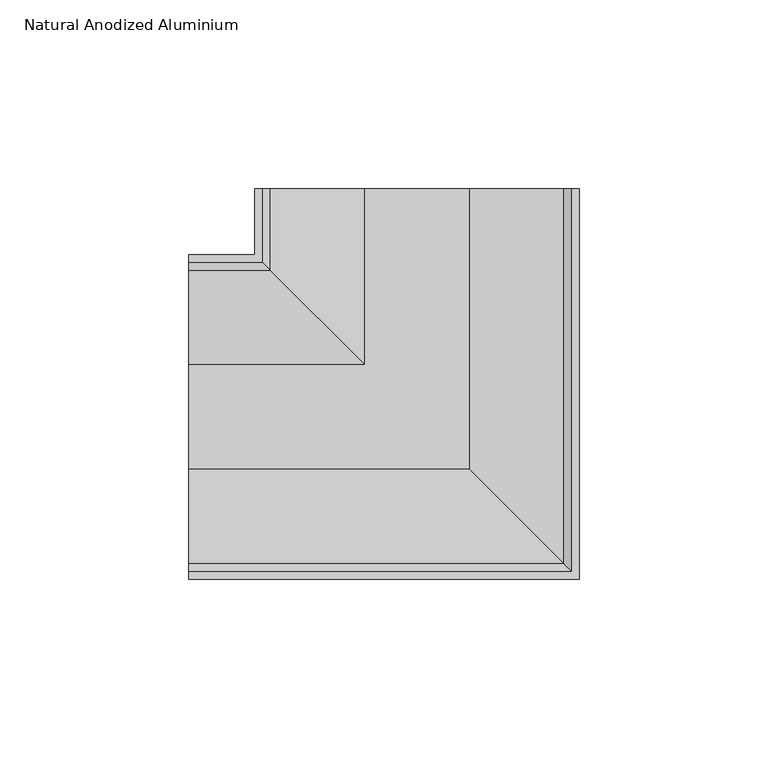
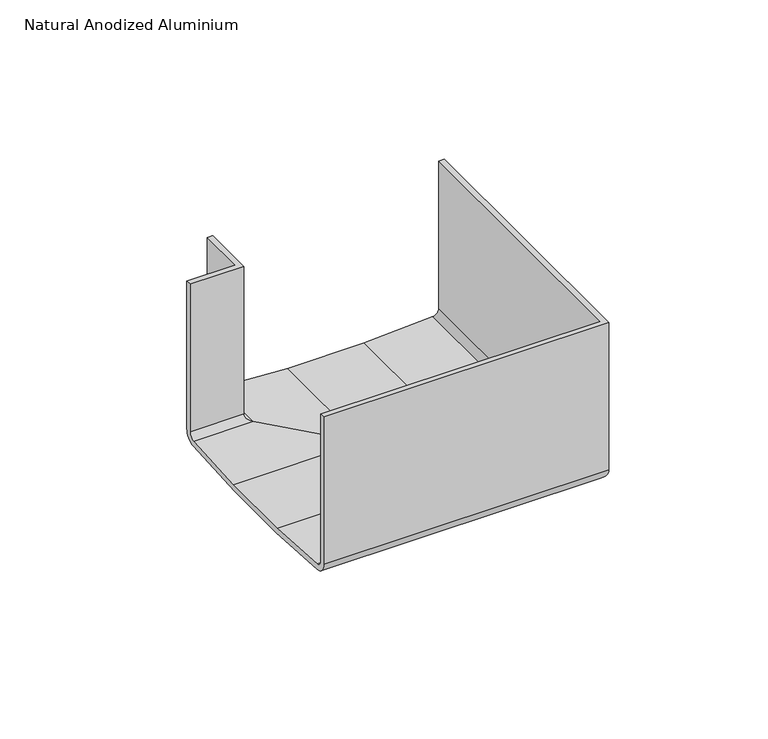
"""IFC4 building model written with IfcOpenShell, lengths in millimetres: cable carrier fitting geometry, Electrical_Installations_Hager_GBA-Flat-Corner-Vertical-Inside-And-Outside-Bend : Natural Anodized Aluminium."""

from ifc_helpers import new_model, si_unit, frame, origin, place, context, project, spatial, polyline, circle_curve, ellipse_curve, source, transform, mapped, element, save
from ifc_brep_helpers import plane_surface, cylinder_surface, revolved_surface, advanced_brep


def natural_anodized_aluminium_261b038a(model_context):
    return source(origin(), model_context, "Body", "AdvancedBrep", [
        advanced_brep(
        [(-60.5, 12.8133024, -34.957916), (-60.5, -12.8629789, -34.957916), (-60.5, -38.9370768, -33.406396), (-60.5, -43.0248383, -29.0681648), (-60.5, -43.0248383, 27.521231), (-60.5, -41.0727353, 27.521231), (-60.5, -41.0727353, -29.0681648), (-60.5, -38.9329395, -31.4049977), (-60.5, -13.8540421, -32.926666), (-60.5, 13.8043655, -32.926666), (-60.5, 38.819149, -31.4097682), (-60.5, 41.0139434, -29.0681648), (-60.5, 41.0139434, 27.6254199), (-60.5, 42.9751617, 27.6254199), (-60.5, 42.9751617, -29.0681648), (-60.5, 39.011084, -33.3972636), (-12.8133024, 12.8133024, -34.957916), (-12.8133024, 60.5, -34.957916), (12.8629789, 60.5, -34.957916), (12.8629789, -12.8629789, -34.957916), (38.9370768, -38.9370768, -33.406396), (43.0248383, -43.0248383, -29.0681648), (43.0248383, -43.0248383, 27.521231), (43.0248383, 60.5, 27.521231), (41.0727353, 60.5, 27.521231), (41.0727353, -41.0727353, 27.521231), (41.0727353, -41.0727353, -29.0681648), (38.9329395, -38.9329395, -31.4049977), (13.8540421, -13.8540421, -32.926666), (13.8540421, 60.5, -32.926666), (-13.8043655, 60.5, -32.926666), (-13.8043655, 13.8043655, -32.926666), (-38.819149, 38.819149, -31.4097682), (-41.0139434, 41.0139434, -29.0681648), (-41.0139434, 41.0139434, 27.6254199), (-41.0139434, 60.5, 27.6254199), (-42.9751617, 60.5, 27.6254199), (-42.9751617, 42.9751617, 27.6254199), (-42.9751617, 42.9751617, -29.0681648), (-39.011084, 39.011084, -33.3972636), (-38.8874003, 60.5, -33.406396), (-42.9751617, 60.5, -29.0681648), (-41.0139434, 60.5, -29.0681648), (-38.8741476, 60.5, -31.4049977), (38.8688255, 60.5, -31.4097682), (41.0727353, 60.5, -29.0681648), (43.0248383, 60.5, -29.0681648), (39.0607605, 60.5, -33.3972636)],
        [
            (0, 1),
            (1, 2, circle_curve(frame((-60.5, -8.5707654, 257.0450878), z_axis=(-1.0, 0.0, 0.0), x_axis=(0.0, 0.0, 1.0)), 292.0345481)),
            (2, 3, circle_curve(frame((-60.5, -38.6789336, -29.0681648), z_axis=(-1.0, 0.0, 0.0), x_axis=(0.0, 0.0, 1.0)), 4.3459047)),
            (3, 4),
            (4, 5),
            (5, 6),
            (6, 7, circle_curve(frame((-60.5, -38.7268306, -29.0681648), z_axis=(1.0, 0.0, 0.0), x_axis=(0.0, 0.0, 1.0)), 2.3459047)),
            (7, 8, circle_curve(frame((-60.5, -9.3389631, 248.5451055), z_axis=(1.0, 0.0, 0.0), x_axis=(0.0, 0.0, 1.0)), 281.5079822)),
            (8, 9),
            (9, 10, circle_curve(frame((-60.5, 9.2892866, 248.5451055), z_axis=(1.0, 0.0, 0.0), x_axis=(0.0, 0.0, 1.0)), 281.5079822)),
            (10, 11, circle_curve(frame((-60.5, 38.6680387, -29.0681648), z_axis=(1.0, 0.0, 0.0), x_axis=(0.0, 0.0, 1.0)), 2.3459047)),
            (11, 12),
            (12, 13),
            (13, 14),
            (14, 15, circle_curve(frame((-60.5, 38.629257, -29.0681648), z_axis=(-1.0, 0.0, 0.0), x_axis=(0.0, 0.0, 1.0)), 4.3459047)),
            (15, 0, circle_curve(frame((-60.5, 8.5210889, 257.0450878), z_axis=(-1.0, 0.0, 0.0), x_axis=(0.0, 0.0, 1.0)), 292.0345481)),
            (0, 16),
            (16, 17),
            (17, 18),
            (18, 19),
            (19, 1),
            (19, 20, ellipse_curve(frame((8.5707654, -8.5707654, 257.0450878), z_axis=(-0.7071067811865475, -0.7071067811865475, 0.0), x_axis=(-0.7071067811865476, 0.7071067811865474, 0.0)), 412.9992186, 292.0345481)),
            (20, 2),
            (20, 21, ellipse_curve(frame((38.6789336, -38.6789336, -29.0681648), z_axis=(-0.7071067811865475, -0.7071067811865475, 0.0), x_axis=(-0.7071067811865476, 0.7071067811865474, 0.0)), 6.1460374, 4.3459047)),
            (21, 3),
            (21, 22),
            (22, 4),
            (22, 23),
            (23, 24),
            (24, 25),
            (25, 5),
            (25, 26),
            (26, 6),
            (26, 27, ellipse_curve(frame((38.7268306, -38.7268306, -29.0681648), z_axis=(0.7071067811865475, 0.7071067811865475, 0.0), x_axis=(0.7071067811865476, -0.7071067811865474, 0.0)), 3.3176103, 2.3459047)),
            (27, 7),
            (27, 28, ellipse_curve(frame((9.3389631, -9.3389631, 248.5451055), z_axis=(0.7071067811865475, 0.7071067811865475, 0.0), x_axis=(0.7071067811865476, -0.7071067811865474, 0.0)), 398.1124064, 281.5079822)),
            (28, 8),
            (28, 29),
            (29, 30),
            (30, 31),
            (31, 9),
            (31, 32, ellipse_curve(frame((-9.2892866, 9.2892866, 248.5451055), z_axis=(0.7071067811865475, 0.7071067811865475, 0.0), x_axis=(0.7071067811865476, -0.7071067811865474, 0.0)), 398.1124064, 281.5079822)),
            (32, 10),
            (32, 33, ellipse_curve(frame((-38.6680387, 38.6680387, -29.0681648), z_axis=(0.7071067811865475, 0.7071067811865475, 0.0), x_axis=(0.7071067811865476, -0.7071067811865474, 0.0)), 3.3176103, 2.3459047)),
            (33, 11),
            (33, 34),
            (34, 12),
            (34, 35),
            (35, 36),
            (36, 37),
            (37, 13),
            (37, 38),
            (38, 14),
            (38, 39, ellipse_curve(frame((-38.629257, 38.629257, -29.0681648), z_axis=(-0.7071067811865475, -0.7071067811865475, 0.0), x_axis=(-0.7071067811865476, 0.7071067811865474, 0.0)), 6.1460374, 4.3459047)),
            (39, 15),
            (39, 16, ellipse_curve(frame((-8.5210889, 8.5210889, 257.0450878), z_axis=(-0.7071067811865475, -0.7071067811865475, 0.0), x_axis=(-0.7071067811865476, 0.7071067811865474, 0.0)), 412.9992186, 292.0345481)),
            (17, 40, circle_curve(frame((-8.5210889, 60.5, 257.0450878), z_axis=(0.0, 1.0, 0.0), x_axis=(0.0, 0.0, 1.0)), 292.0345481)),
            (40, 41, circle_curve(frame((-38.629257, 60.5, -29.0681648), z_axis=(0.0, 1.0, 0.0), x_axis=(0.0, 0.0, 1.0)), 4.3459047)),
            (41, 36),
            (35, 42),
            (42, 43, circle_curve(frame((-38.6680387, 60.5, -29.0681648), z_axis=(0.0, -1.0, 0.0), x_axis=(0.0, 0.0, 1.0)), 2.3459047)),
            (43, 30, circle_curve(frame((-9.2892866, 60.5, 248.5451055), z_axis=(0.0, -1.0, 0.0), x_axis=(0.0, 0.0, 1.0)), 281.5079822)),
            (29, 44, circle_curve(frame((9.3389631, 60.5, 248.5451055), z_axis=(0.0, -1.0, 0.0), x_axis=(0.0, 0.0, 1.0)), 281.5079822)),
            (44, 45, circle_curve(frame((38.7268306, 60.5, -29.0681648), z_axis=(0.0, -1.0, 0.0), x_axis=(0.0, 0.0, 1.0)), 2.3459047)),
            (45, 24),
            (23, 46),
            (46, 47, circle_curve(frame((38.6789336, 60.5, -29.0681648), z_axis=(0.0, 1.0, 0.0), x_axis=(0.0, 0.0, 1.0)), 4.3459047)),
            (47, 18, circle_curve(frame((8.5707654, 60.5, 257.0450878), z_axis=(0.0, 1.0, 0.0), x_axis=(0.0, 0.0, 1.0)), 292.0345481)),
            (47, 20),
            (46, 21),
            (45, 26),
            (44, 27),
            (43, 32),
            (42, 33),
            (41, 38),
            (40, 39),
        ],
        [
            plane_surface(frame((-60.5, 0.0, 0.0), z_axis=(-1.0, 0.0, 0.0), x_axis=(0.0, 0.0, 1.0))),
            plane_surface(frame((-60.5, 12.8133024, -34.957916), z_axis=(0.0, 0.0, -1.0), x_axis=(1.0, 0.0, 0.0))),
            cylinder_surface(frame((-60.5, -8.5707654, 257.0450878), z_axis=(-1.0, 0.0, 0.0), x_axis=(0.0, 0.0, 1.0)), 292.0345481),
            cylinder_surface(frame((-60.5, -38.6789336, -29.0681648), z_axis=(-1.0, 0.0, 0.0), x_axis=(0.0, 0.0, 1.0)), 4.3459047),
            plane_surface(frame((-60.5, -43.0248383, -29.0681648), z_axis=(0.0, -1.0, 0.0), x_axis=(1.0, 0.0, 0.0))),
            plane_surface(frame((-60.5, -43.0248383, 27.521231), z_axis=(0.0, 0.0, 1.0), x_axis=(1.0, 0.0, 0.0))),
            plane_surface(frame((-60.5, -41.0727353, 27.521231), z_axis=(0.0, 1.0, 0.0), x_axis=(1.0, 0.0, 0.0))),
            revolved_surface(polyline([(41.072735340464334, -38.7268306, -26.7222601), (-60.5, -38.7268306, -26.7222601)]), (-60.5, -38.7268306, -29.0681648), (1.0, 0.0, 0.0)),
            revolved_surface(polyline([(290.8469453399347, -9.3389631, 530.0530877), (-272.1690191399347, -9.3389631, 530.0530877)]), (-60.5, -9.3389631, 248.5451055), (1.0, 0.0, 0.0)),
            plane_surface(frame((-60.5, -13.8540421, -32.926666), z_axis=(0.0, 0.0, 1.0), x_axis=(1.0, 0.0, 0.0))),
            revolved_surface(polyline([(272.2186956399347, 9.2892866, 530.0530877), (-290.79726883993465, 9.2892866, 530.0530877)]), (-60.5, 9.2892866, 248.5451055), (1.0, 0.0, 0.0)),
            revolved_surface(polyline([(-36.32213395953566, 38.6680387, -26.7222601), (-60.5, 38.6680387, -26.7222601)]), (-60.5, 38.6680387, -29.0681648), (1.0, 0.0, 0.0)),
            plane_surface(frame((-60.5, 41.0139434, -29.0681648), z_axis=(0.0, -1.0, 0.0), x_axis=(1.0, 0.0, 0.0))),
            plane_surface(frame((-60.5, 41.0139434, 27.6254199), z_axis=(0.0, 0.0, 1.0), x_axis=(1.0, 0.0, 0.0))),
            plane_surface(frame((-60.5, 42.9751617, 27.6254199), z_axis=(0.0, 1.0, 0.0), x_axis=(1.0, 0.0, 0.0))),
            cylinder_surface(frame((-60.5, 38.629257, -29.0681648), z_axis=(-1.0, 0.0, 0.0), x_axis=(0.0, 0.0, 1.0)), 4.3459047),
            cylinder_surface(frame((-60.5, 8.5210889, 257.0450878), z_axis=(-1.0, 0.0, 0.0), x_axis=(0.0, 0.0, 1.0)), 292.0345481),
            plane_surface(frame((0.0, 60.5, 0.0), z_axis=(0.0, 1.0, 0.0), x_axis=(0.0, 0.0, 1.0))),
            cylinder_surface(frame((8.5707654, 0.0, 257.0450878), z_axis=(0.0, -1.0, 0.0), x_axis=(0.0, 0.0, 1.0)), 292.0345481),
            cylinder_surface(frame((38.6789336, 0.0, -29.0681648), z_axis=(0.0, -1.0, 0.0), x_axis=(0.0, 0.0, 1.0)), 4.3459047),
            plane_surface(frame((43.0248383, -43.0248383, -29.0681648), z_axis=(1.0, 0.0, 0.0), x_axis=(0.0, 1.0, 0.0))),
            plane_surface(frame((41.0727353, -41.0727353, 27.521231), z_axis=(-1.0, 0.0, 0.0), x_axis=(0.0, 1.0, 0.0))),
            revolved_surface(polyline([(38.7268306, 60.5, -26.7222601), (38.7268306, -41.072735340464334, -26.7222601)]), (38.7268306, 0.0, -29.0681648), (0.0, 1.0, 0.0)),
            revolved_surface(polyline([(9.3389631, 272.1690191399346, 530.0530877), (9.3389631, -290.8469453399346, 530.0530877)]), (9.3389631, 0.0, 248.5451055), (0.0, 1.0, 0.0)),
            revolved_surface(polyline([(-9.2892866, 290.79726883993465, 530.0530877), (-9.2892866, -272.2186956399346, 530.0530877)]), (-9.2892866, 0.0, 248.5451055), (0.0, 1.0, 0.0)),
            revolved_surface(polyline([(-38.6680387, 60.5, -26.7222601), (-38.6680387, 36.32213395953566, -26.7222601)]), (-38.6680387, 0.0, -29.0681648), (0.0, 1.0, 0.0)),
            plane_surface(frame((-41.0139434, 41.0139434, -29.0681648), z_axis=(1.0, 0.0, 0.0), x_axis=(0.0, 1.0, 0.0))),
            plane_surface(frame((-42.9751617, 42.9751617, 27.6254199), z_axis=(-1.0, 0.0, 0.0), x_axis=(0.0, 1.0, 0.0))),
            cylinder_surface(frame((-38.629257, 0.0, -29.0681648), z_axis=(0.0, -1.0, 0.0), x_axis=(0.0, 0.0, 1.0)), 4.3459047),
            cylinder_surface(frame((-8.5210889, 0.0, 257.0450878), z_axis=(0.0, -1.0, 0.0), x_axis=(0.0, 0.0, 1.0)), 292.0345481),
        ],
        [
            (0, [[1, 2, 3, 4, 5, 6, 7, 8, 9, 10, 11, 12, 13, 14, 15, 16]]),
            (1, [[-1, 17, 18, 19, 20, 21]]),
            (2, [[-2, -21, 22, 23]]),
            (3, [[-3, -23, 24, 25]]),
            (4, [[-4, -25, 26, 27]]),
            (5, [[-5, -27, 28, 29, 30, 31]]),
            (6, [[-6, -31, 32, 33]]),
            (7, [[-7, -33, 34, 35]]),
            (8, [[-8, -35, 36, 37]]),
            (9, [[-9, -37, 38, 39, 40, 41]]),
            (10, [[-10, -41, 42, 43]]),
            (11, [[-11, -43, 44, 45]]),
            (12, [[-12, -45, 46, 47]]),
            (13, [[-13, -47, 48, 49, 50, 51]]),
            (14, [[-14, -51, 52, 53]]),
            (15, [[-15, -53, 54, 55]]),
            (16, [[-16, -55, 56, -17]]),
            (17, [[57, 58, 59, -49, 60, 61, 62, -39, 63, 64, 65, -29, 66, 67, 68, -19]]),
            (18, [[-22, -20, -68, 69]]),
            (19, [[-24, -69, -67, 70]]),
            (20, [[-26, -70, -66, -28]]),
            (21, [[-32, -30, -65, 71]]),
            (22, [[-34, -71, -64, 72]]),
            (23, [[-36, -72, -63, -38]]),
            (24, [[-42, -40, -62, 73]]),
            (25, [[-44, -73, -61, 74]]),
            (26, [[-46, -74, -60, -48]]),
            (27, [[-52, -50, -59, 75]]),
            (28, [[-54, -75, -58, 76]]),
            (29, [[-56, -76, -57, -18]]),
        ],
    ),
    ])


if __name__ == "__main__":
    model = new_model("IFC4")
    model_context = context("Model", 3, world=origin())
    ifc_project = project(units=[si_unit("LENGTHUNIT", "METRE", prefix="MILLI")], contexts=[model_context])
    site = spatial("IfcSite", under=ifc_project)
    building = spatial("IfcBuilding", under=site)
    placement = place(None, origin())
    natural_anodized_aluminium_shape = natural_anodized_aluminium_261b038a(model_context)
    element("IfcCableCarrierFitting", 1, ObjectType="Electrical_Installations_Hager_GBA-Flat-Corner-Vertical-Inside-And-Outside-Bend : Natural Anodized Aluminium", at=placement, inside=building, context=model_context, shape_type="MappedRepresentation", body=[
        mapped(natural_anodized_aluminium_shape, transform((0.0, 0.0, 0.0), x_axis=(1.0, 0.0, 0.0), y_axis=(0.0, 1.0, 0.0), z_axis=(0.0, 0.0, 1.0))),
    ])
    save(model, "model.ifc")
